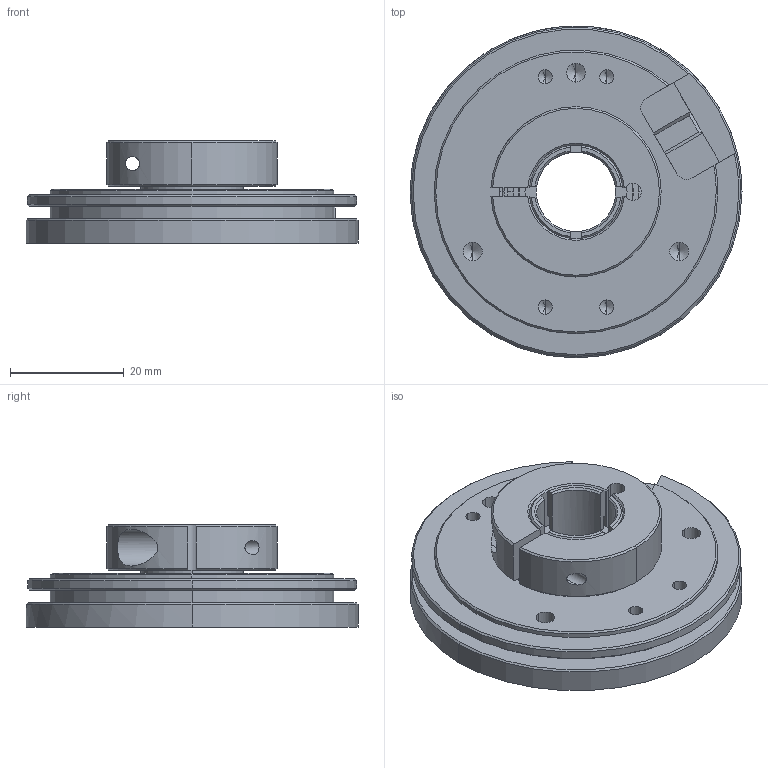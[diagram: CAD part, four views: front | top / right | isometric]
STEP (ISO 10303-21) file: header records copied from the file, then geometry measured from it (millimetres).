
FILE_DESCRIPTION (( 'STEP AP214' ), '1' );
FILE_NAME ('drawing-ucd-heb0-m5b-n.STEP', '2017-06-06T13:06:59', ( '' ), ( '' ), 'SwSTEP 2.0', 'SolidWorks 2017', '' );
FILE_SCHEMA (( 'AUTOMOTIVE_DESIGN' ));
Length unit declared in the file: millimetre
Products named in the file (1): drawing-ucd-heb0-m5b-n
Bounding box: 58.5 x 58.5 x 18 mm (x, y, z)
Volume: 23417.1 mm3; surface area: 18058.3 mm2
Topology: 43 solids, 43 shells, 371 faces, 944 edges, 589 vertices
Faces by surface type: cylinder 106, plane 86, cone 73, sphere 64, torus 42
Entity records: 14641 total; most frequent: DIRECTION 1902, CARTESIAN_POINT 1883, ORIENTED_EDGE 1528, AXIS2_PLACEMENT_3D 816, EDGE_CURVE 764, VERTEX_POINT 493, CIRCLE 444, UNCERTAINTY_MEASURE_WITH_UNIT 416
